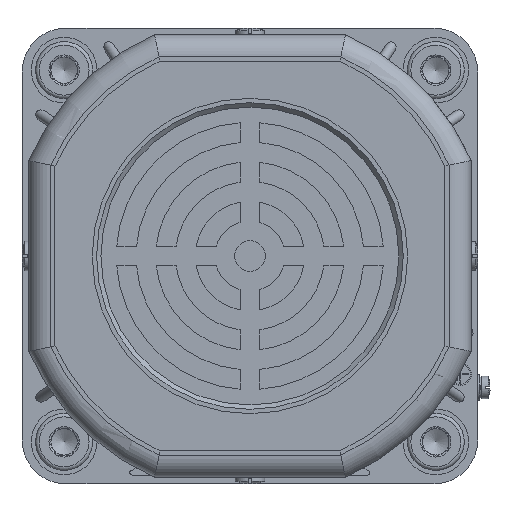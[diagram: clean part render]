
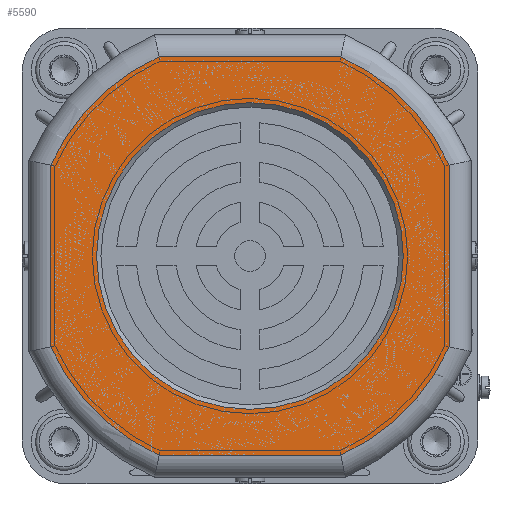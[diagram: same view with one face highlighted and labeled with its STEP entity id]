
A CAD part, left-side view. The second image highlights one B-rep face of the part: STEP entity #5590.
In plain terms, the highlighted planar face has unit normal (-1, 0, 0).
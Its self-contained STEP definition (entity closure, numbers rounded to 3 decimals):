
#5590=ADVANCED_FACE('',(#10204,#10205),#6555,.F.);
#6555=PLANE('',#30752);
#7618=LINE('',#48847,#9060);
#7622=LINE('',#48873,#9064);
#7625=LINE('',#48895,#9067);
#7626=LINE('',#48906,#9068);
#9060=VECTOR('',#36062,1.);
#9064=VECTOR('',#36078,1.);
#9067=VECTOR('',#36089,1.);
#9068=VECTOR('',#36096,1.);
#10204=FACE_BOUND('',#11889,.T.);
#10205=FACE_BOUND('',#11890,.T.);
#11889=EDGE_LOOP('',(#18077,#18078,#18079,#18080,#18081,#18082,#18083,#18084));
#11890=EDGE_LOOP('',(#18085));
#18077=ORIENTED_EDGE('',*,*,#25650,.T.);
#18078=ORIENTED_EDGE('',*,*,#25631,.T.);
#18079=ORIENTED_EDGE('',*,*,#25636,.T.);
#18080=ORIENTED_EDGE('',*,*,#25640,.T.);
#18081=ORIENTED_EDGE('',*,*,#25644,.T.);
#18082=ORIENTED_EDGE('',*,*,#25648,.T.);
#18083=ORIENTED_EDGE('',*,*,#25653,.T.);
#18084=ORIENTED_EDGE('',*,*,#25654,.T.);
#18085=ORIENTED_EDGE('',*,*,#25822,.T.);
#22130=VERTEX_POINT('',#48826);
#22131=VERTEX_POINT('',#48828);
#22133=VERTEX_POINT('',#48846);
#22135=VERTEX_POINT('',#48859);
#22137=VERTEX_POINT('',#48872);
#22139=VERTEX_POINT('',#48885);
#22140=VERTEX_POINT('',#48894);
#22141=VERTEX_POINT('',#48905);
#22261=VERTEX_POINT('',#49268);
#25631=EDGE_CURVE('',#22131,#22130,#28304,.T.);
#25636=EDGE_CURVE('',#22130,#22133,#7618,.T.);
#25640=EDGE_CURVE('',#22133,#22135,#28306,.T.);
#25644=EDGE_CURVE('',#22135,#22137,#7622,.T.);
#25648=EDGE_CURVE('',#22137,#22139,#28308,.T.);
#25650=EDGE_CURVE('',#22140,#22131,#7625,.T.);
#25653=EDGE_CURVE('',#22139,#22141,#7626,.T.);
#25654=EDGE_CURVE('',#22141,#22140,#28310,.T.);
#25822=EDGE_CURVE('',#22261,#22261,#28382,.T.);
#28304=CIRCLE('',#30575,50.);
#28306=CIRCLE('',#30581,50.);
#28308=CIRCLE('',#30587,50.);
#28310=CIRCLE('',#30593,50.);
#28382=CIRCLE('',#30737,35.);
#30575=AXIS2_PLACEMENT_3D('',#48827,#36053,#36054);
#30581=AXIS2_PLACEMENT_3D('',#48860,#36069,#36070);
#30587=AXIS2_PLACEMENT_3D('',#48886,#36085,#36086);
#30593=AXIS2_PLACEMENT_3D('',#48908,#36099,#36100);
#30737=AXIS2_PLACEMENT_3D('',#49267,#36483,#36484);
#30752=AXIS2_PLACEMENT_3D('',#49283,#36513,#36514);
#36053=DIRECTION('',(-1.,0.,0.));
#36054=DIRECTION('',(0.,0.,1.));
#36062=DIRECTION('',(0.,0.,1.));
#36069=DIRECTION('',(-1.,0.,0.));
#36070=DIRECTION('',(0.,0.,1.));
#36078=DIRECTION('',(0.,1.,0.));
#36085=DIRECTION('',(-1.,0.,0.));
#36086=DIRECTION('',(0.,0.,1.));
#36089=DIRECTION('',(0.,-1.,0.));
#36096=DIRECTION('',(0.,0.,-1.));
#36099=DIRECTION('',(-1.,0.,0.));
#36100=DIRECTION('',(0.,0.,1.));
#36483=DIRECTION('',(1.,0.,0.));
#36484=DIRECTION('',(0.,-1.,0.));
#36513=DIRECTION('',(1.,0.,0.));
#36514=DIRECTION('',(0.,0.,1.));
#48826=CARTESIAN_POINT('',(-269.8,-166.171,-79.221));
#48827=CARTESIAN_POINT('',(-269.8,-120.671,-58.491));
#48828=CARTESIAN_POINT('',(-269.8,-141.402,-103.991));
#48846=CARTESIAN_POINT('',(-269.8,-166.171,-37.76));
#48847=CARTESIAN_POINT('',(-269.8,-166.171,-36.702));
#48859=CARTESIAN_POINT('',(-269.8,-141.402,-12.991));
#48860=CARTESIAN_POINT('',(-269.8,-120.671,-58.491));
#48872=CARTESIAN_POINT('',(-269.8,-99.941,-12.991));
#48873=CARTESIAN_POINT('',(-269.8,-98.882,-12.991));
#48885=CARTESIAN_POINT('',(-269.8,-75.171,-37.76));
#48886=CARTESIAN_POINT('',(-269.8,-120.671,-58.491));
#48894=CARTESIAN_POINT('',(-269.8,-99.941,-103.991));
#48895=CARTESIAN_POINT('',(-269.8,-142.46,-103.991));
#48905=CARTESIAN_POINT('',(-269.8,-75.171,-79.221));
#48906=CARTESIAN_POINT('',(-269.8,-75.171,-80.28));
#48908=CARTESIAN_POINT('',(-269.8,-120.671,-58.491));
#49267=CARTESIAN_POINT('',(-269.8,-120.671,-58.491));
#49268=CARTESIAN_POINT('',(-269.8,-155.671,-58.491));
#49283=CARTESIAN_POINT('',(-269.8,-120.671,-58.491));
